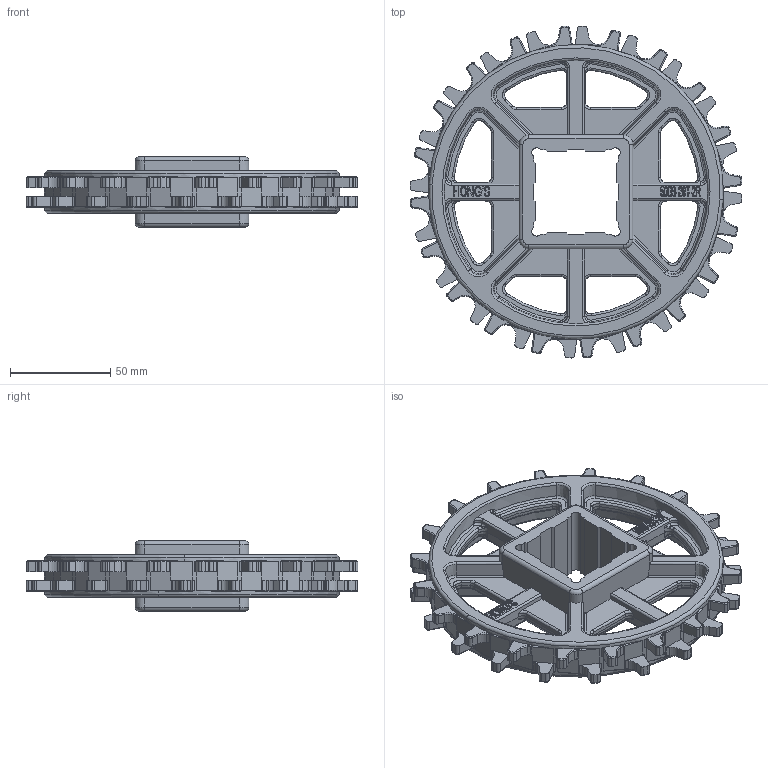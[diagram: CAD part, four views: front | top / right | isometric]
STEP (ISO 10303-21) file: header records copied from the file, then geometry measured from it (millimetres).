
FILE_DESCRIPTION(/* description */ (''),/* implementation_level */ '2;1');
FILE_NAME(/* name */ 'HS-500B-20T-2R-S40.stp',/* time_stamp */ '2025-09-17T17:34:21+08:00',/* author */ (''),/* organization */ (''),/* preprocessor_version */ 'ST-DEVELOPER v15',/* originating_system */ 'SIEMENS PLM Software NX 8.5',/* authorisation */ '');
FILE_SCHEMA (('AP203_CONFIGURATION_CONTROLLED_3D_DESIGN_OF_MECHANICAL_PARTS_AND_ASSEMBLIES_MIM_LF { 1 0 10303 403 2 1 2}'));
Products named in the file (1): Admi23A89FF2lsuk
Bounding box: 165.67 x 165.67 x 34.99 mm (x, y, z)
Volume: 193674.7 mm3; surface area: 63849.2 mm2
Topology: 1 solids, 1 shells, 1701 faces, 4347 edges, 2660 vertices
Faces by surface type: cylinder 574, plane 478, torus 324, bspline 160, extrusion 119, cone 46
Entity records: 59496 total; most frequent: CARTESIAN_POINT 18920, ORIENTED_EDGE 8690, DIRECTION 8394, EDGE_CURVE 4345, AXIS2_PLACEMENT_3D 3227, VERTEX_POINT 2674, VECTOR 1940, LINE 1821
